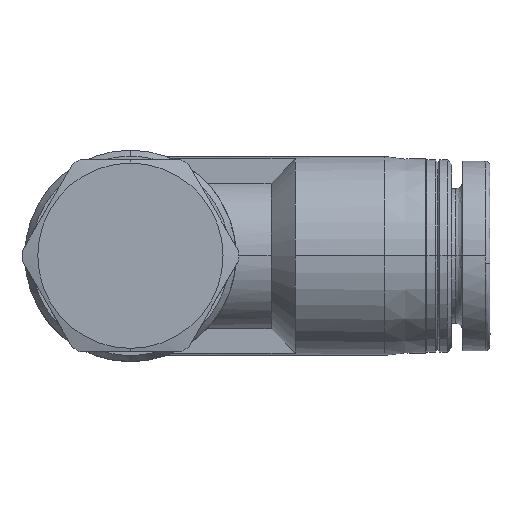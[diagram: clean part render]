
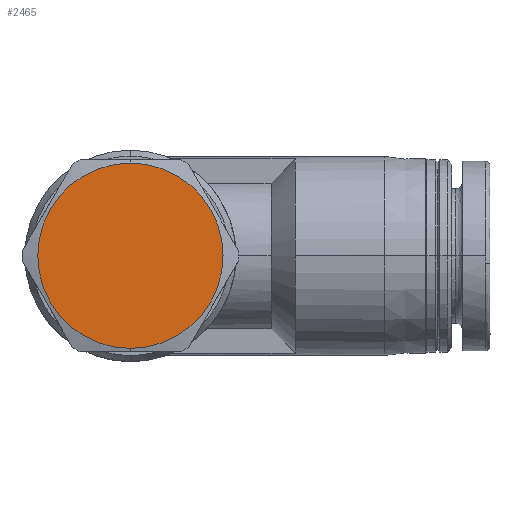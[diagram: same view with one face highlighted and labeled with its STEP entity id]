
A CAD part, top view. The second image highlights one B-rep face of the part: STEP entity #2465.
In plain terms, the highlighted planar face has unit normal (0, 0, 1).
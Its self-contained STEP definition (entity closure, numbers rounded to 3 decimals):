
#20 = FACE_OUTER_BOUND ( 'NONE', #3056, .T. ) ;
#74 = VERTEX_POINT ( 'NONE', #2844 ) ;
#181 = ORIENTED_EDGE ( 'NONE', *, *, #1503, .F. ) ;
#265 = AXIS2_PLACEMENT_3D ( 'NONE', #1538, #1546, #1565 ) ;
#433 = AXIS2_PLACEMENT_3D ( 'NONE', #736, #1588, #1646 ) ;
#736 = CARTESIAN_POINT ( 'NONE',  ( 0., 0., 27. ) ) ;
#853 = ORIENTED_EDGE ( 'NONE', *, *, #1992, .F. ) ;
#970 = DIRECTION ( 'NONE',  ( 1., 0., 0. ) ) ;
#1458 = DIRECTION ( 'NONE',  ( 0., 0., 1. ) ) ;
#1503 = EDGE_CURVE ( 'NONE', #3050, #74, #1561, .T. ) ;
#1538 = CARTESIAN_POINT ( 'NONE',  ( 0., 0., 27. ) ) ;
#1546 = DIRECTION ( 'NONE',  ( 0., 0., -1. ) ) ;
#1561 = CIRCLE ( 'NONE', #433, 6.75 ) ;
#1565 = DIRECTION ( 'NONE',  ( 0., 1., 0. ) ) ;
#1588 = DIRECTION ( 'NONE',  ( 0., 0., -1. ) ) ;
#1646 = DIRECTION ( 'NONE',  ( 0., 1., 0. ) ) ;
#1736 = PLANE ( 'NONE',  #1997 ) ;
#1755 = CARTESIAN_POINT ( 'NONE',  ( 7.25, 7.25, 27. ) ) ;
#1992 = EDGE_CURVE ( 'NONE', #74, #3050, #2760, .T. ) ;
#1997 = AXIS2_PLACEMENT_3D ( 'NONE', #1755, #1458, #970 ) ;
#2465 = ADVANCED_FACE ( '35', ( #20 ), #1736, .T. ) ;
#2760 = CIRCLE ( 'NONE', #265, 6.75 ) ;
#2844 = CARTESIAN_POINT ( 'NONE',  ( 0., 6.75, 27. ) ) ;
#3050 = VERTEX_POINT ( 'NONE', #3083 ) ;
#3056 = EDGE_LOOP ( 'NONE', ( #853, #181 ) ) ;
#3083 = CARTESIAN_POINT ( 'NONE',  ( 0., -6.75, 27. ) ) ;
